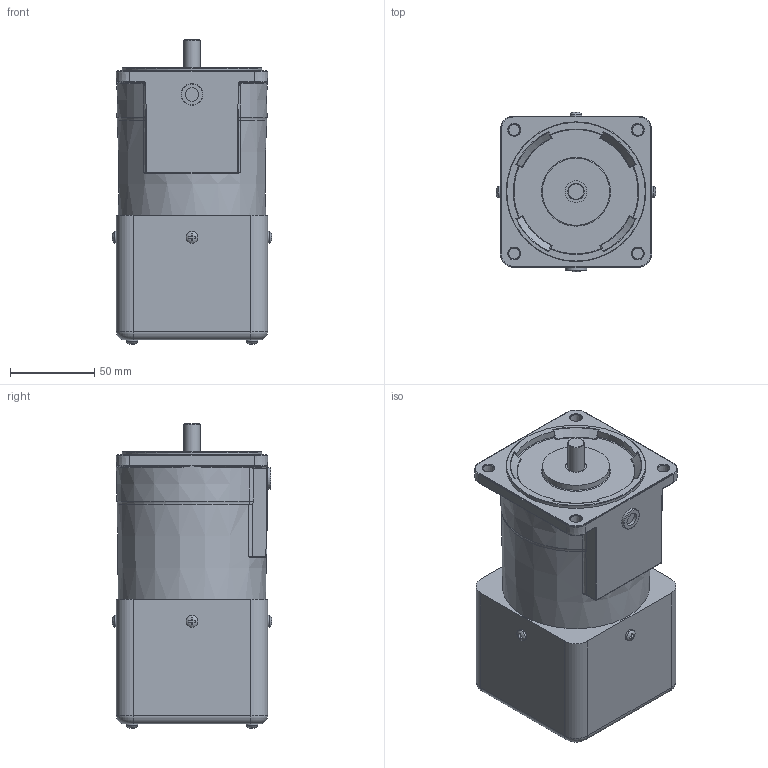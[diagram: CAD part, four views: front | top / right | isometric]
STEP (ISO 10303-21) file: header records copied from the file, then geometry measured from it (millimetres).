
FILE_DESCRIPTION (( 'STEP AP214' ), '1' );
FILE_NAME ('9TDG¤±-30F2G.STEP', '2025-01-13T08:12:15', ( '' ), ( '' ), 'SwSTEP 2.0', 'SolidWorks 2024', '' );
FILE_SCHEMA (( 'AUTOMOTIVE_DESIGN' ));
Length unit declared in the file: millimetre
Products named in the file (1): 9TDGㅁ-30F2G
Bounding box: 95.13 x 95.13 x 181.07 mm (x, y, z)
Volume: 1140305 mm3; surface area: 73633.2 mm2
Topology: 1 solids, 1 shells, 427 faces, 1092 edges, 697 vertices
Faces by surface type: plane 196, cylinder 134, torus 35, cone 32, bspline 28, sphere 2
Full cylindrical faces by diameter (mm): 6.5 x4, 7 x8, 8 x1, 9.8 x1, 10 x1, 13 x2, 40 x1, 83.1 x1
Entity records: 13372 total; most frequent: CARTESIAN_POINT 3540, ORIENTED_EDGE 2034, DIRECTION 1969, EDGE_CURVE 1017, AXIS2_PLACEMENT_3D 743, VERTEX_POINT 678, EDGE_LOOP 521, VECTOR 483
